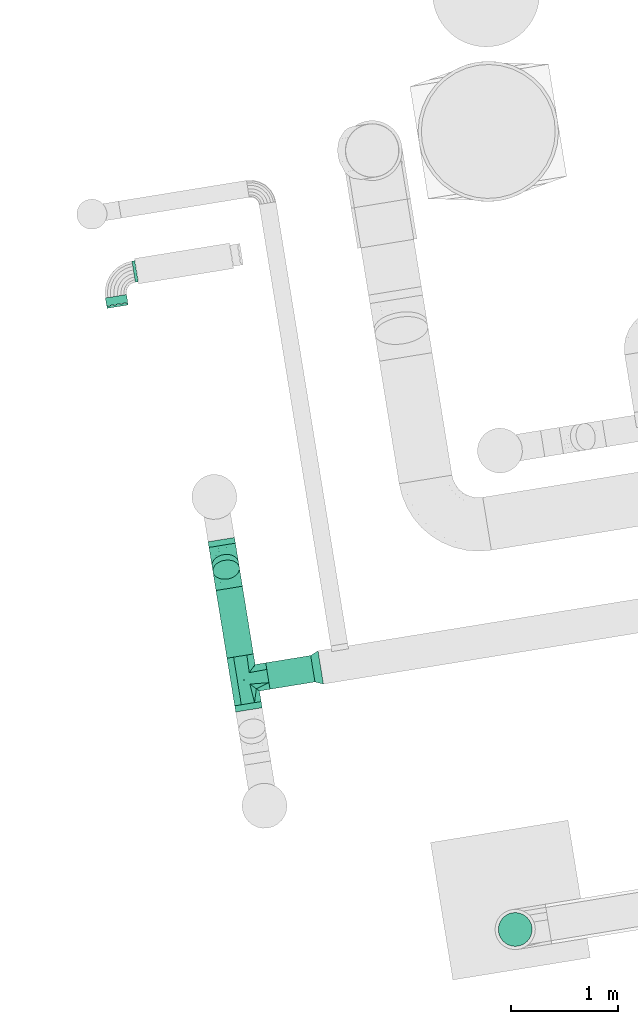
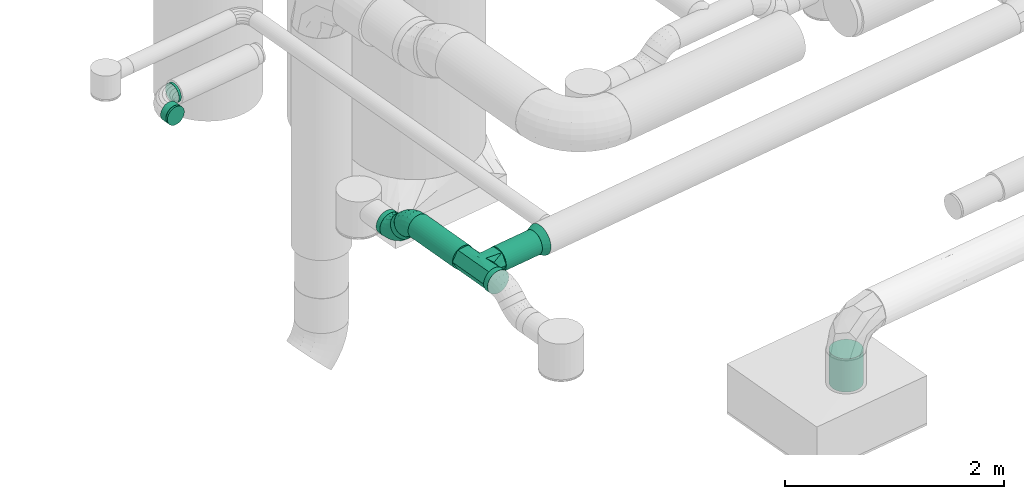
# One storey, part 15 of 39: 8 flow segments, 4 flow fittings, 1 flow terminal.
"""IFC2X3 building model written with IfcOpenShell, lengths in millimetres."""

from ifc_helpers import new_model, entity, si_unit, converted_unit, derived_unit, direction, frame, frame_2d, origin, origin_with_axes, origin_2d_with_axis, place, context, subcontext, project, spatial, circle, extrude, faceted_brep, source, transform, mapped, material, type_object, element, save


model = new_model("IFC2X3")

# Units and contexts
model_context = context("Model", 3, precision=0.01, world=origin(), true_north=direction((6.12323399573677e-17, 1.0)))
plan_context = context("Plan", 3, precision=1e-05, world=origin_with_axes())
body_context = subcontext(model_context, "Body", "Model", "MODEL_VIEW")
ifc_project = project(units=[converted_unit("PLANEANGLEUNIT", "DEGREE", entity("IfcPositiveLengthMeasure", 0.0174532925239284), si_unit("PLANEANGLEUNIT", "RADIAN"), dimensions=[0, 0, 0, 0, 0, 0, 0]), si_unit("AREAUNIT", "SQUARE_METRE"), si_unit("LENGTHUNIT", "METRE", prefix="MILLI"), si_unit("MASSUNIT", "GRAM", prefix="KILO"), si_unit("POWERUNIT", "WATT"), si_unit("PRESSUREUNIT", "PASCAL", prefix="KILO"), si_unit("FORCEUNIT", "NEWTON", prefix="KILO"), si_unit("ELECTRICVOLTAGEUNIT", "VOLT"), si_unit("ELECTRICCURRENTUNIT", "AMPERE"), si_unit("THERMODYNAMICTEMPERATUREUNIT", "DEGREE_CELSIUS"), si_unit("TIMEUNIT", "SECOND"), si_unit("VOLUMEUNIT", "CUBIC_METRE"), derived_unit("LINEARVELOCITYUNIT", [(si_unit("LENGTHUNIT", "METRE"), 1), (si_unit("TIMEUNIT", "SECOND"), -1)]), derived_unit("VOLUMETRICFLOWRATEUNIT", [(si_unit("VOLUMEUNIT", "CUBIC_METRE"), 1), (si_unit("TIMEUNIT", "SECOND"), -1)]), derived_unit("THERMALTRANSMITTANCEUNIT", [(si_unit("POWERUNIT", "WATT"), 1), (si_unit("THERMODYNAMICTEMPERATUREUNIT", "KELVIN"), -1), (si_unit("AREAUNIT", "SQUARE_METRE"), -1)]), derived_unit("SOUNDPRESSUREUNIT", [(si_unit("PRESSUREUNIT", "PASCAL"), 1)])], contexts=[model_context, plan_context])

# Site, building, storey
site_placement = place(None, frame((-0.00071070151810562, 0.00438415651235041, 0.0), z_axis=(0.0, 0.0, 1.0), x_axis=(-0.160236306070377, 0.987078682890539, 0.0)))
site = spatial("IfcSite", under=ifc_project, at=site_placement, Name="Default", CompositionType="ELEMENT")
building_placement = place(site_placement, origin_with_axes())
building = spatial("IfcBuilding", under=site, at=building_placement, CompositionType="ELEMENT")
storey_placement = place(building_placement, frame((0.0, 0.0, 50999.9999999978), z_axis=(0.0, 0.0, 1.0), x_axis=(1.0, 0.0, 0.0)))
storey = spatial("IfcBuildingStorey", under=building, at=storey_placement, Name="Nivå D", CompositionType="ELEMENT", Elevation=50999.9999999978)

# Flow fittings
ifc_material_1 = material(Name="<Unnamed>")
duct_fitting_type_1 = type_object("IfcDuctFittingType", Name="magicirc_tee_centric_90_1:magicirc_tee_centric_90_001", PredefinedType="NOTDEFINED", material=ifc_material_1)
shared_shape_1 = source(origin(), body_context, "Body", "Brep", [
    faceted_brep([(-225.0, -125.0, 0.0), (-225.0, -109.375, 27.0632938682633), (-225.0, -93.7499999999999, 54.1265877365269), (-225.0, -62.5000000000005, 108.253175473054), (-225.0, 0.0, 108.253175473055), (-225.0, 62.4999999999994, 108.253175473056), (-225.0, 93.75, 54.1265877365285), (-225.0, 125.0, 0.0), (-225.0, 93.7500000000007, -54.1265877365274), (-225.0, 62.5000000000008, -108.253175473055), (-225.0, 0.0, -108.253175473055), (-225.0, -62.4999999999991, -108.253175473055), (-225.0, -93.7499999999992, -54.1265877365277), (225.0, 62.4999999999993, -108.253175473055), (225.0, 93.7499999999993, -54.1265877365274), (225.0, 125.0, 0.0), (225.0, 99.1118287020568, 44.8396280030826), (225.0, 62.499999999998, 108.253175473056), (225.0, 0.0, 108.253175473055), (225.0, -62.5000000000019, 108.253175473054), (225.0, -93.7500000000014, 54.1265877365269), (225.0, -125.0, 0.0), (225.0, -109.375000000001, -27.063293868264), (225.0, -93.7500000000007, -54.1265877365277), (225.0, -62.5000000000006, -108.253175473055), (225.0, 0.0, -108.253175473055), (125.0, -125.0, 0.0), (-125.0, -125.0, 0.0), (108.218707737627, -108.218707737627, 62.5596618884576), (-112.494430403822, -112.494430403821, 37.5074249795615), (-99.9888608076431, -99.9888608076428, 75.0148499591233), (-47.5890111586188, -47.5890111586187, 115.586703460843), (59.0209382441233, -59.0209382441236, 110.188605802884), (0.0, 0.0, 125.0), (47.5890111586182, -47.5890111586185, -115.586703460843), (0.0, 0.0, -125.0), (-108.218707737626, -108.218707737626, -62.559661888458), (-59.0209382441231, -59.0209382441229, -110.188605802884), (112.494430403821, -112.494430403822, -37.5074249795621), (99.9888608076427, -99.9888608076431, -75.0148499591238), (62.5000000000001, -225.0, -108.253175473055), (93.75, -225.0, -54.1265877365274), (125.0, -225.0, 0.0), (93.7499999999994, -225.0, 54.1265877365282), (62.4999999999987, -225.0, 108.253175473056), (0.0, -225.0, 108.253175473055), (-62.5000000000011, -225.0, 108.253175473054), (-93.7500000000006, -225.0, 54.1265877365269), (-125.0, -225.0, 0.0), (-93.7499999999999, -225.0, -54.1265877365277), (-62.4999999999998, -225.0, -108.253175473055), (0.0, -225.0, -108.253175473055)], [[[0, 1, 2, 3, 4, 5, 6, 7, 8, 9, 10, 11, 12]], [[13, 14, 15, 16, 17, 18, 19, 20, 21, 22, 23, 24, 25]], [[21, 20, 26]], [[27, 1, 0]], [[28, 20, 19]], [[29, 2, 1]], [[29, 30, 2]], [[27, 29, 1]], [[31, 3, 30]], [[32, 18, 33]], [[6, 5, 17, 16, 15, 7]], [[26, 20, 28]], [[19, 32, 28]], [[32, 19, 18]], [[33, 18, 17]], [[4, 3, 31]], [[33, 5, 4]], [[5, 33, 17]], [[4, 31, 33]], [[30, 3, 2]], [[7, 15, 14, 13, 9, 8]], [[34, 25, 24]], [[35, 25, 34]], [[9, 35, 10]], [[27, 12, 36]], [[13, 35, 9]], [[10, 37, 11]], [[37, 10, 35]], [[35, 13, 25]], [[26, 38, 22]], [[38, 39, 23]], [[39, 24, 23]], [[11, 36, 12]], [[11, 37, 36]], [[0, 12, 27]], [[26, 22, 21]], [[38, 23, 22]], [[39, 34, 24]], [[40, 41, 42, 43, 44, 45, 46, 47, 48, 49, 50, 51]], [[47, 30, 29, 27]], [[47, 46, 30]], [[28, 44, 43]], [[45, 32, 33]], [[31, 30, 46]], [[31, 46, 45]], [[32, 45, 44]], [[43, 42, 26]], [[43, 26, 28]], [[47, 27, 48]], [[45, 33, 31]], [[28, 32, 44]], [[41, 39, 38, 26]], [[41, 40, 39]], [[36, 50, 49]], [[51, 37, 35]], [[34, 39, 40]], [[34, 40, 51]], [[37, 51, 50]], [[49, 48, 27]], [[49, 27, 36]], [[41, 26, 42]], [[51, 35, 34]], [[36, 37, 50]]]),
])
flow_fitting_1_placement = place(storey_placement, frame((771939.479289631, -593065.099185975, 3310.0), z_axis=(0.0, 0.0, 1.0), x_axis=(1.0, 0.0, 0.0)))
element("IfcFlowFitting", 1, at=flow_fitting_1_placement, inside=storey, type_object=duct_fitting_type_1, material=ifc_material_1, Name="magicirc_tee_centric_90_1:magicirc_tee_centric_90_001", ObjectType="magicirc_tee_centric_90_1:magicirc_tee_centric_90_001", context=body_context, shape_type="MappedRepresentation", body=[
    mapped(shared_shape_1, transform((0.0, 0.0, 0.0), scale=1.0)),
])
ifc_material_2 = material(Name="Material_Duct")
duct_fitting_type_2 = type_object("IfcDuctFittingType", Name="magicirc_reduction_001:magicirc_reduction_001", PredefinedType="NOTDEFINED", material=ifc_material_2)
shared_shape_2 = source(origin(), body_context, "Body", "Brep", [
    faceted_brep([(75.0, -125.0, 0.0), (75.0, -118.882064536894, -38.6271242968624), (75.0, -101.127124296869, -73.473156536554), (75.0, -73.4731565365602, -101.127124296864), (75.0, -38.627124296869, -118.882064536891), (75.0, 0.0, -125.0), (75.0, 38.6271242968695, -118.882064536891), (75.0, 73.4731565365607, -101.127124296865), (75.0, 101.12712429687, -73.4731565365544), (75.0, 118.882064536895, -38.6271242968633), (75.0, 125.0, 0.0), (75.0, 118.882064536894, 38.6271242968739), (75.0, 101.127124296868, 73.4731565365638), (75.0, 73.4731565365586, 101.127124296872), (75.0, 38.6271242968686, 118.882064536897), (75.0, 0.0, 125.0), (75.0, -38.6271242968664, 118.882064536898), (75.0, -73.4731565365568, 101.127124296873), (75.0, -101.127124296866, 73.4731565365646), (75.0, -118.882064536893, 38.6271242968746), (0.0, 157.499999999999, 0.0), (0.0, 152.133317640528, -40.7639996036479), (0.0, 136.399001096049, -78.7500000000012), (0.0, 111.369318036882, -111.369318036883), (0.0, 78.7500000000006, -136.399001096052), (0.0, 40.7639996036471, -152.133317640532), (0.0, 0.0, -157.500000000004), (0.0, -40.7639996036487, -152.133317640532), (0.0, -78.7500000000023, -136.399001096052), (0.0, -111.369318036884, -111.369318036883), (0.0, -136.399001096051, -78.7500000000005), (0.0, -152.133317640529, -40.7639996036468), (0.0, -157.500000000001, 0.0), (0.0, -152.133317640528, 40.7639996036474), (0.0, -136.399001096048, 78.7499999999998), (0.0, -111.36931803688, 111.36931803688), (0.0, -78.7499999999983, 136.399001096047), (0.0, -40.7639996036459, 152.133317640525), (0.0, 0.0, 157.499999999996), (0.0, 40.7639996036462, 152.133317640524), (0.0, 78.7499999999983, 136.399001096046), (0.0, 111.369318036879, 111.369318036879), (0.0, 136.399001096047, 78.7499999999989), (0.0, 152.133317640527, 40.7639996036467)], [[[0, 1, 2, 3, 4, 5, 6, 7, 8, 9, 10, 11, 12, 13, 14, 15, 16, 17, 18, 19]], [[20, 21, 22, 23, 24, 25, 26, 27, 28, 29, 30, 31, 32, 33, 34, 35, 36, 37, 38, 39, 40, 41, 42, 43]], [[22, 9, 8]], [[21, 10, 9]], [[24, 7, 6]], [[5, 25, 6]], [[8, 7, 23]], [[26, 25, 5]], [[9, 22, 21]], [[21, 20, 10]], [[8, 23, 22]], [[7, 24, 23]], [[24, 6, 25]], [[27, 5, 4]], [[3, 28, 4]], [[1, 0, 31]], [[2, 1, 30]], [[29, 3, 2]], [[28, 27, 4]], [[28, 3, 29]], [[2, 30, 29]], [[1, 31, 30]], [[32, 31, 0]], [[5, 27, 26]], [[34, 19, 18]], [[33, 0, 19]], [[36, 17, 16]], [[15, 37, 16]], [[18, 17, 35]], [[38, 37, 15]], [[19, 34, 33]], [[33, 32, 0]], [[18, 35, 34]], [[17, 36, 35]], [[36, 16, 37]], [[39, 15, 14]], [[13, 40, 14]], [[11, 10, 43]], [[12, 11, 42]], [[41, 13, 12]], [[40, 39, 14]], [[40, 13, 41]], [[12, 42, 41]], [[11, 43, 42]], [[20, 43, 10]], [[15, 39, 38]]]),
])
flow_fitting_2_placement = place(storey_placement, frame((771939.479289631, -593790.099185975, 3310.0), z_axis=(0.0, 0.0, 1.0), x_axis=(0.0, 1.0, 0.0)))
element("IfcFlowFitting", 2, at=flow_fitting_2_placement, inside=storey, type_object=duct_fitting_type_2, material=ifc_material_2, Name="magicirc_reduction_001:magicirc_reduction_001", ObjectType="magicirc_reduction_001:magicirc_reduction_001", context=body_context, shape_type="MappedRepresentation", body=[
    mapped(shared_shape_2, transform((0.0, 0.0, 0.0), scale=1.0)),
])
duct_fitting_type_3 = type_object("IfcDuctFittingType", Name="magicirc_elbow_full_radius_1:magicirc_elbow_full_radius_001", PredefinedType="NOTDEFINED", material=ifc_material_1)
shared_shape_3 = source(origin(), body_context, "Body", "Brep", [
    faceted_brep([(-30.3945198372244, -117.794480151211, 0.0), (-31.5880698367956, -111.79409910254, 38.6271242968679), (-103.553390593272, -118.882064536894, 38.6271242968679), (-103.553390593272, -125.0, 0.0), (-35.0518868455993, -94.3803150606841, 73.4731565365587), (-103.553390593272, -101.127124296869, 73.4731565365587), (-40.4469083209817, -67.2577105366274, 101.127124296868), (-103.553390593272, -73.4731565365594, 101.127124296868), (-47.2450319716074, -33.0812350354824, 118.882064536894), (-103.553390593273, -38.6271242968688, 118.882064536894), (-54.7808100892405, 4.80367989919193, 125.0), (-103.553390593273, 0.0, 125.0), (-62.3165882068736, 42.6885948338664, 118.882064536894), (-103.553390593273, 38.6271242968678, 118.882064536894), (-69.1147118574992, 76.8650703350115, 101.127124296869), (-103.553390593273, 73.4731565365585, 101.127124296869), (-74.5097333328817, 103.987674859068, 73.4731565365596), (-103.553390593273, 101.127124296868, 73.4731565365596), (-77.9735503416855, 121.401458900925, 38.6271242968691), (-103.553390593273, 118.882064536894, 38.6271242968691), (-79.1671003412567, 127.401839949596, 0.0), (-103.553390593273, 125.0, 0.0), (-77.9735503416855, 121.401458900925, -38.6271242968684), (-103.553390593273, 118.882064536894, -38.6271242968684), (-74.5097333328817, 103.987674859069, -73.473156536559), (-103.553390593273, 101.127124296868, -73.473156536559), (-69.1147118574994, 76.8650703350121, -101.127124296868), (-103.553390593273, 73.4731565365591, -101.127124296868), (-62.3165882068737, 42.6885948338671, -118.882064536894), (-103.553390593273, 38.6271242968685, -118.882064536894), (-54.7808100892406, 4.80367989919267, -125.0), (-103.553390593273, 0.0, -125.0), (-47.2450319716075, -33.0812350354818, -118.882064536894), (-103.553390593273, -38.6271242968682, -118.882064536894), (-40.4469083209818, -67.2577105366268, -101.127124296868), (-103.553390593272, -73.4731565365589, -101.127124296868), (-35.0518868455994, -94.3803150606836, -73.4731565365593), (-103.553390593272, -101.127124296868, -73.4731565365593), (-31.5880698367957, -111.79409910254, -38.6271242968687), (-103.553390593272, -118.882064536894, -38.6271242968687), (39.952896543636, -96.4548246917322, 0.0), (37.6116640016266, -90.8025893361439, 38.6271242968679), (30.8171425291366, -74.3991634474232, 73.4731565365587), (20.2344272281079, -48.8502286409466, 101.127124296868), (6.89942800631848, -16.656692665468, 118.882064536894), (-7.88253250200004, 19.030116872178, 125.0), (-22.6644930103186, 54.7169264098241, 118.882064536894), (-35.9994922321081, 86.9104623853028, 101.127124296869), (-46.5822075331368, 112.45939719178, 73.4731565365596), (-53.376729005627, 128.862823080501, 38.6271242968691), (-55.7179615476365, 134.515058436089, 0.0), (-53.3767290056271, 128.862823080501, -38.6271242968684), (-46.582207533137, 112.45939719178, -73.473156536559), (-35.9994922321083, 86.9104623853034, -101.127124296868), (-22.6644930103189, 54.7169264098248, -118.882064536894), (-7.88253250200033, 19.0301168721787, -125.0), (6.89942800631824, -16.6566926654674, -118.882064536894), (20.2344272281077, -48.8502286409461, -101.127124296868), (30.8171425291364, -74.3991634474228, -73.4731565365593), (37.6116640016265, -90.8025893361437, -38.6271242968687), (104.785446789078, -61.801104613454, 0.0), (101.386503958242, -56.7142271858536, 38.6271242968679), (91.5223876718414, -41.9515339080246, 73.4731565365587), (76.1586663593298, -18.9581000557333, 101.127124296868), (56.7992481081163, 10.0153168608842, 118.882064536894), (35.3391676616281, 42.1325969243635, 125.0), (13.8790872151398, 74.2498769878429, 118.882064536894), (-5.48033103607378, 103.22329390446, 101.127124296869), (-20.8440523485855, 126.216727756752, 73.4731565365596), (-30.7081686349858, 140.979421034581, 38.6271242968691), (-34.1071114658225, 146.066298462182, 0.0), (-30.7081686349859, 140.979421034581, -38.6271242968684), (-20.8440523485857, 126.216727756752, -73.473156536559), (-5.48033103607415, 103.223293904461, -101.127124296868), (13.8790872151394, 74.2498769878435, -118.882064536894), (35.3391676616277, 42.1325969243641, -125.0), (56.799248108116, 10.0153168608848, -118.882064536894), (76.1586663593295, -18.9581000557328, -101.127124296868), (91.5223876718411, -41.9515339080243, -73.4731565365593), (101.386503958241, -56.7142271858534, -38.6271242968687), (161.611652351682, -15.1650429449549, 0.0), (157.285618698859, -10.8390092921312, 38.6271242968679), (144.730980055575, 1.7156293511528, 73.4731565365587), (125.176671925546, 21.2699374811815, 101.127124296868), (100.536806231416, 45.9098031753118, 118.882064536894), (73.2233047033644, 73.223304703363, 125.0), (45.9098031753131, 100.536806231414, 118.882064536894), (21.2699374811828, 125.176671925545, 101.127124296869), (1.71562935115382, 144.730980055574, 73.4731565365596), (-10.8390092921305, 157.285618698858, 38.6271242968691), (-15.1650429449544, 161.611652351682, 0.0), (-10.8390092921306, 157.285618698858, -38.6271242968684), (1.71562935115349, 144.730980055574, -73.473156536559), (21.2699374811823, 125.176671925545, -101.127124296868), (45.9098031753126, 100.536806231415, -118.882064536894), (73.2233047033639, 73.2233047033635, -125.0), (100.536806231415, 45.9098031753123, -118.882064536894), (125.176671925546, 21.269937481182, -101.127124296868), (144.730980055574, 1.71562935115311, -73.4731565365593), (157.285618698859, -10.8390092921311, -38.6271242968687)], [[[0, 1, 2, 3]], [[1, 4, 5, 2]], [[4, 6, 7, 5]], [[6, 8, 9, 7]], [[8, 10, 11, 9]], [[10, 12, 13, 11]], [[12, 14, 15, 13]], [[14, 16, 17, 15]], [[16, 18, 19, 17]], [[18, 20, 21, 19]], [[20, 22, 23, 21]], [[22, 24, 25, 23]], [[24, 26, 27, 25]], [[26, 28, 29, 27]], [[28, 30, 31, 29]], [[30, 32, 33, 31]], [[32, 34, 35, 33]], [[34, 36, 37, 35]], [[36, 38, 39, 37]], [[38, 0, 3, 39]], [[40, 41, 1, 0]], [[41, 42, 4, 1]], [[42, 43, 6, 4]], [[43, 44, 8, 6]], [[44, 45, 10, 8]], [[45, 46, 12, 10]], [[46, 47, 14, 12]], [[47, 48, 16, 14]], [[48, 49, 18, 16]], [[49, 50, 20, 18]], [[50, 51, 22, 20]], [[51, 52, 24, 22]], [[52, 53, 26, 24]], [[53, 54, 28, 26]], [[54, 55, 30, 28]], [[55, 56, 32, 30]], [[56, 57, 34, 32]], [[57, 58, 36, 34]], [[58, 59, 38, 36]], [[59, 40, 0, 38]], [[60, 61, 41, 40]], [[61, 62, 42, 41]], [[62, 63, 43, 42]], [[63, 64, 44, 43]], [[64, 65, 45, 44]], [[65, 66, 46, 45]], [[66, 67, 47, 46]], [[67, 68, 48, 47]], [[68, 69, 49, 48]], [[69, 70, 50, 49]], [[70, 71, 51, 50]], [[71, 72, 52, 51]], [[72, 73, 53, 52]], [[73, 74, 54, 53]], [[74, 75, 55, 54]], [[75, 76, 56, 55]], [[76, 77, 57, 56]], [[77, 78, 58, 57]], [[78, 79, 59, 58]], [[79, 60, 40, 59]], [[80, 81, 61, 60]], [[81, 82, 62, 61]], [[82, 83, 63, 62]], [[83, 84, 64, 63]], [[84, 85, 65, 64]], [[85, 86, 66, 65]], [[86, 87, 67, 66]], [[87, 88, 68, 67]], [[88, 89, 69, 68]], [[89, 90, 70, 69]], [[90, 91, 71, 70]], [[91, 92, 72, 71]], [[92, 93, 73, 72]], [[93, 94, 74, 73]], [[94, 95, 75, 74]], [[95, 96, 76, 75]], [[96, 97, 77, 76]], [[97, 98, 78, 77]], [[98, 99, 79, 78]], [[99, 80, 60, 79]], [[3, 2, 5, 7, 9, 11, 13, 15, 17, 19, 21, 23, 25, 27, 29, 31, 33, 35, 37, 39]], [[99, 98, 97, 96, 95, 94, 93, 92, 91, 90, 89, 88, 87, 86, 85, 84, 83, 82, 81, 80]]]),
])
flow_fitting_3_placement = place(storey_placement, frame((772908.454420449, -593065.099185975, 3310.0), z_axis=(-9.81307786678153e-18, -1.0, 9.81307786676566e-18), x_axis=(-0.707106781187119, 1.38777878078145e-17, 0.707106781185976)))
element("IfcFlowFitting", 3, at=flow_fitting_3_placement, inside=storey, type_object=duct_fitting_type_3, material=ifc_material_1, Name="magicirc_elbow_full_radius_1:magicirc_elbow_full_radius_001", ObjectType="magicirc_elbow_full_radius_1:magicirc_elbow_full_radius_001", context=body_context, shape_type="MappedRepresentation", body=[
    mapped(shared_shape_3, transform((0.0, 0.0, 0.0), scale=1.0)),
])
duct_fitting_type_4 = type_object("IfcDuctFittingType", Name="magicirc_elbow_full_radius_1:magicirc_elbow_full_radius_001", PredefinedType="NOTDEFINED", material=ifc_material_1)
shared_shape_4 = source(origin(), body_context, "Body", "Brep", [
    faceted_brep([(-30.3945198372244, 117.794480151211, 0.0), (-31.5880698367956, 111.79409910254, -38.6271242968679), (-103.553390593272, 118.882064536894, -38.6271242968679), (-103.553390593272, 125.0, 0.0), (-35.0518868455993, 94.3803150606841, -73.4731565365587), (-103.553390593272, 101.127124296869, -73.4731565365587), (-40.4469083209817, 67.2577105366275, -101.127124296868), (-103.553390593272, 73.4731565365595, -101.127124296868), (-47.2450319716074, 33.0812350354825, -118.882064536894), (-103.553390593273, 38.6271242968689, -118.882064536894), (-54.7808100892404, -4.80367989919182, -125.0), (-103.553390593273, 0.0, -125.0), (-62.3165882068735, -42.6885948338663, -118.882064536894), (-103.553390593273, -38.6271242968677, -118.882064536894), (-69.1147118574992, -76.8650703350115, -101.127124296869), (-103.553390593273, -73.4731565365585, -101.127124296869), (-74.5097333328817, -103.987674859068, -73.4731565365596), (-103.553390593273, -101.127124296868, -73.4731565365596), (-77.9735503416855, -121.401458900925, -38.6271242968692), (-103.553390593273, -118.882064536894, -38.6271242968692), (-79.1671003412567, -127.401839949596, 0.0), (-103.553390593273, -125.0, 0.0), (-77.9735503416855, -121.401458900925, 38.6271242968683), (-103.553390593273, -118.882064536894, 38.6271242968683), (-74.5097333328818, -103.987674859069, 73.4731565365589), (-103.553390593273, -101.127124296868, 73.4731565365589), (-69.1147118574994, -76.8650703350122, 101.127124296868), (-103.553390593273, -73.4731565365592, 101.127124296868), (-62.3165882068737, -42.6885948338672, 118.882064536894), (-103.553390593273, -38.6271242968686, 118.882064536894), (-54.7808100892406, -4.80367989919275, 125.0), (-103.553390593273, 0.0, 125.0), (-47.2450319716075, 33.0812350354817, 118.882064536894), (-103.553390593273, 38.6271242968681, 118.882064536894), (-40.4469083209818, 67.2577105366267, 101.127124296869), (-103.553390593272, 73.4731565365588, 101.127124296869), (-35.0518868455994, 94.3803150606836, 73.4731565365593), (-103.553390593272, 101.127124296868, 73.4731565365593), (-31.5880698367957, 111.79409910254, 38.6271242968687), (-103.553390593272, 118.882064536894, 38.6271242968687), (39.952896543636, 96.4548246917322, 0.0), (37.6116640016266, 90.8025893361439, -38.6271242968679), (30.8171425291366, 74.3991634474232, -73.4731565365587), (20.2344272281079, 48.8502286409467, -101.127124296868), (6.89942800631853, 16.6566926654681, -118.882064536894), (-7.88253250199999, -19.0301168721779, -125.0), (-22.6644930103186, -54.716926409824, -118.882064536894), (-35.9994922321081, -86.9104623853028, -101.127124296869), (-46.5822075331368, -112.45939719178, -73.4731565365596), (-53.376729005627, -128.862823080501, -38.6271242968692), (-55.7179615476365, -134.515058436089, 0.0), (-53.3767290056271, -128.862823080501, 38.6271242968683), (-46.582207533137, -112.45939719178, 73.4731565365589), (-35.9994922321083, -86.9104623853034, 101.127124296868), (-22.6644930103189, -54.7169264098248, 118.882064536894), (-7.88253250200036, -19.0301168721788, 125.0), (6.89942800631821, 16.6566926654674, 118.882064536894), (20.2344272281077, 48.850228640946, 101.127124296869), (30.8171425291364, 74.3991634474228, 73.4731565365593), (37.6116640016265, 90.8025893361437, 38.6271242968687), (104.785446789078, 61.801104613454, 0.0), (101.386503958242, 56.7142271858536, -38.6271242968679), (91.5223876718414, 41.9515339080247, -73.4731565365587), (76.1586663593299, 18.9581000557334, -101.127124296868), (56.7992481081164, -10.0153168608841, -118.882064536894), (35.3391676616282, -42.1325969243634, -125.0), (13.8790872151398, -74.2498769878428, -118.882064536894), (-5.48033103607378, -103.22329390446, -101.127124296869), (-20.8440523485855, -126.216727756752, -73.4731565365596), (-30.7081686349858, -140.979421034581, -38.6271242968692), (-34.1071114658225, -146.066298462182, 0.0), (-30.7081686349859, -140.979421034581, 38.6271242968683), (-20.8440523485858, -126.216727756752, 73.4731565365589), (-5.48033103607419, -103.223293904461, 101.127124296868), (13.8790872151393, -74.2498769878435, 118.882064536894), (35.3391676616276, -42.1325969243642, 125.0), (56.799248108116, -10.0153168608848, 118.882064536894), (76.1586663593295, 18.9581000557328, 101.127124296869), (91.5223876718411, 41.9515339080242, 73.4731565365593), (101.386503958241, 56.7142271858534, 38.6271242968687), (161.611652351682, 15.1650429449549, 0.0), (157.285618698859, 10.8390092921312, -38.6271242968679), (144.730980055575, -1.71562935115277, -73.4731565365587), (125.176671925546, -21.2699374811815, -101.127124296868), (100.536806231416, -45.9098031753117, -118.882064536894), (73.2233047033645, -73.2233047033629, -125.0), (45.9098031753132, -100.536806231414, -118.882064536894), (21.2699374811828, -125.176671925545, -101.127124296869), (1.71562935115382, -144.730980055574, -73.4731565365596), (-10.8390092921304, -157.285618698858, -38.6271242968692), (-15.1650429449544, -161.611652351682, 0.0), (-10.8390092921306, -157.285618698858, 38.6271242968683), (1.71562935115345, -144.730980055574, 73.4731565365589), (21.2699374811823, -125.176671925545, 101.127124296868), (45.9098031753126, -100.536806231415, 118.882064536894), (73.2233047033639, -73.2233047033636, 125.0), (100.536806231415, -45.9098031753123, 118.882064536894), (125.176671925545, -21.269937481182, 101.127124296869), (144.730980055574, -1.71562935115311, 73.4731565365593), (157.285618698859, 10.8390092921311, 38.6271242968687)], [[[0, 1, 2, 3]], [[1, 4, 5, 2]], [[4, 6, 7, 5]], [[6, 8, 9, 7]], [[8, 10, 11, 9]], [[10, 12, 13, 11]], [[12, 14, 15, 13]], [[14, 16, 17, 15]], [[16, 18, 19, 17]], [[18, 20, 21, 19]], [[20, 22, 23, 21]], [[22, 24, 25, 23]], [[24, 26, 27, 25]], [[26, 28, 29, 27]], [[28, 30, 31, 29]], [[30, 32, 33, 31]], [[32, 34, 35, 33]], [[34, 36, 37, 35]], [[36, 38, 39, 37]], [[38, 0, 3, 39]], [[40, 41, 1, 0]], [[41, 42, 4, 1]], [[42, 43, 6, 4]], [[43, 44, 8, 6]], [[44, 45, 10, 8]], [[45, 46, 12, 10]], [[46, 47, 14, 12]], [[47, 48, 16, 14]], [[48, 49, 18, 16]], [[49, 50, 20, 18]], [[50, 51, 22, 20]], [[51, 52, 24, 22]], [[52, 53, 26, 24]], [[53, 54, 28, 26]], [[54, 55, 30, 28]], [[55, 56, 32, 30]], [[56, 57, 34, 32]], [[57, 58, 36, 34]], [[58, 59, 38, 36]], [[59, 40, 0, 38]], [[60, 61, 41, 40]], [[61, 62, 42, 41]], [[62, 63, 43, 42]], [[63, 64, 44, 43]], [[64, 65, 45, 44]], [[65, 66, 46, 45]], [[66, 67, 47, 46]], [[67, 68, 48, 47]], [[68, 69, 49, 48]], [[69, 70, 50, 49]], [[70, 71, 51, 50]], [[71, 72, 52, 51]], [[72, 73, 53, 52]], [[73, 74, 54, 53]], [[74, 75, 55, 54]], [[75, 76, 56, 55]], [[76, 77, 57, 56]], [[77, 78, 58, 57]], [[78, 79, 59, 58]], [[79, 60, 40, 59]], [[80, 81, 61, 60]], [[81, 82, 62, 61]], [[82, 83, 63, 62]], [[83, 84, 64, 63]], [[84, 85, 65, 64]], [[85, 86, 66, 65]], [[86, 87, 67, 66]], [[87, 88, 68, 67]], [[88, 89, 69, 68]], [[89, 90, 70, 69]], [[90, 91, 71, 70]], [[91, 92, 72, 71]], [[92, 93, 73, 72]], [[93, 94, 74, 73]], [[94, 95, 75, 74]], [[95, 96, 76, 75]], [[96, 97, 77, 76]], [[97, 98, 78, 77]], [[98, 99, 79, 78]], [[99, 80, 60, 79]], [[3, 2, 5, 7, 9, 11, 13, 15, 17, 19, 21, 23, 25, 27, 29, 31, 33, 35, 37, 39]], [[99, 98, 97, 96, 95, 94, 93, 92, 91, 90, 89, 88, 87, 86, 85, 84, 83, 82, 81, 80]]]),
])
flow_fitting_4_placement = place(storey_placement, frame((773108.454420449, -593065.099185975, 3110.0), z_axis=(0.0, -1.0, 0.0), x_axis=(-1.0, 0.0, 0.0)))
element("IfcFlowFitting", 4, at=flow_fitting_4_placement, inside=storey, type_object=duct_fitting_type_4, material=ifc_material_1, Name="magicirc_elbow_full_radius_1:magicirc_elbow_full_radius_001", ObjectType="magicirc_elbow_full_radius_1:magicirc_elbow_full_radius_001", context=body_context, shape_type="MappedRepresentation", body=[
    mapped(shared_shape_4, transform((0.0, 0.0, 0.0), scale=1.0)),
])

# Flow terminal
air_terminal_type = type_object("IfcAirTerminalType", Name="FRALUFTSVENTIL -  - SF002T:FRALUFTSVENTIL - NETTING-200 - SF002T", PredefinedType="NOTDEFINED", material=ifc_material_1)
shared_shape_5 = source(origin(), body_context, "Body", "SweptSolid", [
    extrude(circle(Radius=99.9999999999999, at=frame_2d((-2.0293653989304e-15, -1.61554457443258e-13), x_axis=(1.0, 0.0))), origin(), (0.0, 0.0, 1.0), 20.0),
])
flow_terminal_placement = place(storey_placement, frame((775586.5610899, -592458.424054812, 3310.0), z_axis=(-1.0, 0.0, 0.0), x_axis=(0.0, 0.0, -1.0)))
element("IfcFlowTerminal", 5, at=flow_terminal_placement, inside=storey, type_object=air_terminal_type, material=ifc_material_1, Name="FRALUFTSVENTIL -  - SF002T:FRALUFTSVENTIL - NETTING-200 - SF002T", ObjectType="FRALUFTSVENTIL -  - SF002T:FRALUFTSVENTIL - NETTING-200 - SF002T", context=body_context, shape_type="MappedRepresentation", body=[
    mapped(shared_shape_5, transform((0.0, 0.0, 0.0), scale=1.0)),
])

# Flow segments
duct_segment_type = type_object("IfcDuctSegmentType", Name="Round Duct:KK001T - Spiro kanaler, Forsinket stål", PredefinedType="NOTDEFINED")
flow_segment_1_placement = place(storey_placement, origin_with_axes())
element("IfcFlowSegment", 6, at=flow_segment_1_placement, inside=storey, type_object=duct_segment_type, Name="Round Duct:KK001T - Spiro kanaler, Forsinket stål", ObjectType="Round Duct:KK001T - Spiro kanaler, Forsinket stål", context=body_context, shape_type="SweptSolid", body=[
    extrude(circle(Radius=157.5, at=origin_2d_with_axis()), frame((769234.832653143, -595189.746741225, 2565.0)), (0.0, 0.0, 1.0), 370.000000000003),
])
flow_segment_2_placement = place(storey_placement, origin_with_axes())
element("IfcFlowSegment", 7, at=flow_segment_2_placement, inside=storey, type_object=duct_segment_type, Name="Round Duct:KK001T - Spiro kanaler, Forsinket stål", ObjectType="Round Duct:KK001T - Spiro kanaler, Forsinket stål", context=body_context, shape_type="SweptSolid", body=[
    extrude(circle(Radius=125.0, at=origin_2d_with_axis()), frame((771939.47928963, -593715.099185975, 3310.0), z_axis=(0.0, 1.0, 0.0), x_axis=(1.0, 0.0, 0.0)), (0.0, 0.0, 1.0), 424.99999999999),
])
flow_segment_3_placement = place(storey_placement, origin_with_axes())
element("IfcFlowSegment", 8, at=flow_segment_3_placement, inside=storey, type_object=duct_segment_type, Name="Round Duct:KK001T - Spiro kanaler, Forsinket stål", ObjectType="Round Duct:KK001T - Spiro kanaler, Forsinket stål", context=body_context, shape_type="SweptSolid", body=[
    extrude(circle(Radius=125.0, at=origin_2d_with_axis()), frame((773212.007811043, -593065.099185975, 3110.0), z_axis=(1.0, 0.0, 0.0), x_axis=(0.0, 1.0, 0.0)), (0.0, 0.0, 1.0), 53.4427519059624),
])
flow_segment_4_placement = place(storey_placement, origin_with_axes())
element("IfcFlowSegment", 9, at=flow_segment_4_placement, inside=storey, type_object=duct_segment_type, Name="Round Duct:KK001T - Spiro kanaler, Forsinket stål", ObjectType="Round Duct:KK001T - Spiro kanaler, Forsinket stål", context=body_context, shape_type="SweptSolid", body=[
    extrude(circle(Radius=125.0, at=origin_2d_with_axis()), frame((772981.677725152, -593065.099185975, 3236.7766952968), z_axis=(0.707106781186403, 0.0, -0.707106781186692), x_axis=(0.0, -1.0, 0.0)), (0.0, 0.0, 1.0), 75.7359312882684),
])
flow_segment_5_placement = place(storey_placement, origin_with_axes())
element("IfcFlowSegment", 10, at=flow_segment_5_placement, inside=storey, type_object=duct_segment_type, Name="Round Duct:KK001T - Spiro kanaler, Forsinket stål", ObjectType="Round Duct:KK001T - Spiro kanaler, Forsinket stål", context=body_context, shape_type="SweptSolid", body=[
    extrude(circle(Radius=125.0, at=origin_2d_with_axis()), frame((772164.47928963, -593065.099185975, 3310.0), z_axis=(1.0, 0.0, 0.0), x_axis=(0.0, -1.0, 0.0)), (0.0, 0.0, 1.0), 640.421740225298),
])
flow_segment_6_placement = place(storey_placement, origin_with_axes())
element("IfcFlowSegment", 11, at=flow_segment_6_placement, inside=storey, type_object=duct_segment_type, Name="Round Duct:KK001T - Spiro kanaler, Forsinket stål", ObjectType="Round Duct:KK001T - Spiro kanaler, Forsinket stål", context=body_context, shape_type="SweptSolid", body=[
    extrude(circle(Radius=125.0, at=frame_2d((0.0, -8.66293703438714e-12), x_axis=(1.0, 0.0))), frame((771655.957549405, -593065.099185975, 3310.0), z_axis=(1.0, 0.0, 0.0), x_axis=(0.0, 1.0, 0.0)), (0.0, 0.0, 1.0), 58.5217402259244),
])
flow_segment_7_placement = place(storey_placement, origin_with_axes())
element("IfcFlowSegment", 12, at=flow_segment_7_placement, inside=storey, type_object=duct_segment_type, Name="Round Duct:KK001T - Spiro kanaler, Forsinket stål", ObjectType="Round Duct:KK001T - Spiro kanaler, Forsinket stål", context=body_context, shape_type="SweptSolid", body=[
    extrude(circle(Radius=100.0, at=frame_2d((0.0, 8.66293703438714e-12), x_axis=(1.0, 0.0))), frame((775865.219644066, -592684.963294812, 3310.0), z_axis=(0.0, 1.0, 0.0), x_axis=(1.0, 0.0, 0.0)), (0.0, 0.0, 1.0), 26.5392399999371),
])
flow_segment_8_placement = place(storey_placement, origin_with_axes())
element("IfcFlowSegment", 13, at=flow_segment_8_placement, inside=storey, type_object=duct_segment_type, Name="Round Duct:KK001T - Spiro kanaler, Forsinket stål", ObjectType="Round Duct:KK001T - Spiro kanaler, Forsinket stål", context=body_context, shape_type="SweptSolid", body=[
    extrude(circle(Radius=100.0, at=frame_2d((6.93034962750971e-11, 0.0), x_axis=(1.0, 0.0))), frame((775589.6395699, -592458.424054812, 3310.0), z_axis=(1.0, 0.0, 0.0), x_axis=(0.0, 1.0, 0.0)), (0.0, 0.0, 1.0), 75.5800741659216),
])

save(model, "model.ifc")
